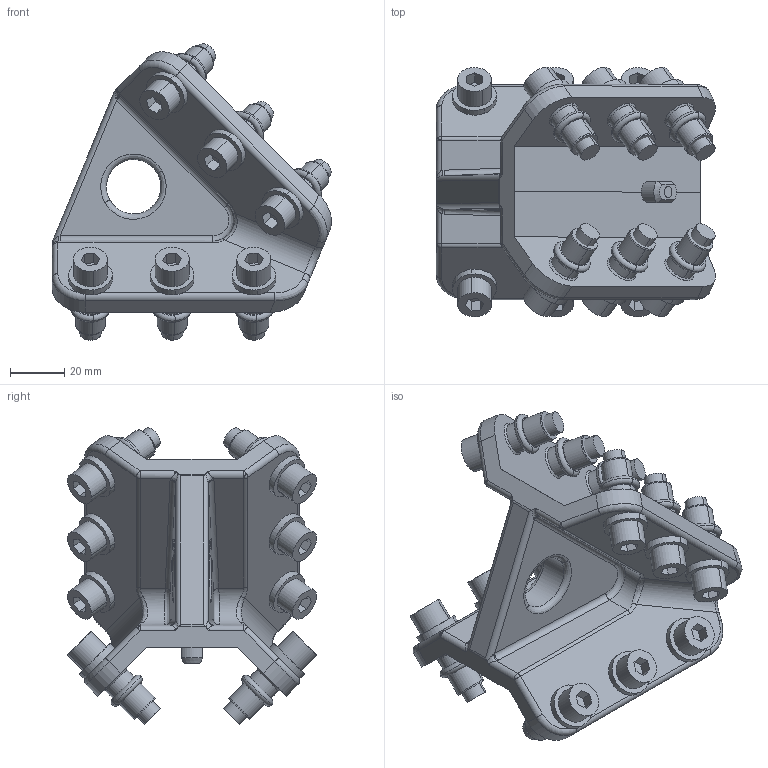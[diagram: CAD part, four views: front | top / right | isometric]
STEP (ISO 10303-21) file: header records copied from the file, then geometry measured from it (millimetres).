
FILE_DESCRIPTION(('CATIA V5 STEP Exchange'),'2;1');
FILE_NAME('\\192.168.2.253\vorns\技术部\03-技术资料\03-产品数模\02、抓具\STP\EGT088.stp','2017-10-18T02:07:24+00:00',('none'),('none'),'CATIA Version 5 Release 21 GA (IN-10)','CATIA V5 STEP AP203','none');
FILE_SCHEMA(('CONFIG_CONTROL_DESIGN'));
Length unit declared in the file: millimetre
Products named in the file (1): EGT088
Assembly tree (15 placements, depth 2):
  EGT088
    #58
    #7417  x12
    #8647  x2
Bounding box: 102.54 x 91.57 x 108.82 mm (x, y, z)
Volume: 195515.2 mm3; surface area: 75638.7 mm2
Topology: 29 solids, 29 shells, 652 faces, 1418 edges, 876 vertices
Faces by surface type: cylinder 258, plane 228, cone 80, torus 52, bspline 26, sphere 8
Entity records: 9056 total; most frequent: CARTESIAN_POINT 4413, ORIENTED_EDGE 996, DIRECTION 746, EDGE_CURVE 498, AXIS2_PLACEMENT_3D 337, VERTEX_POINT 306, EDGE_LOOP 244, VECTOR 210
